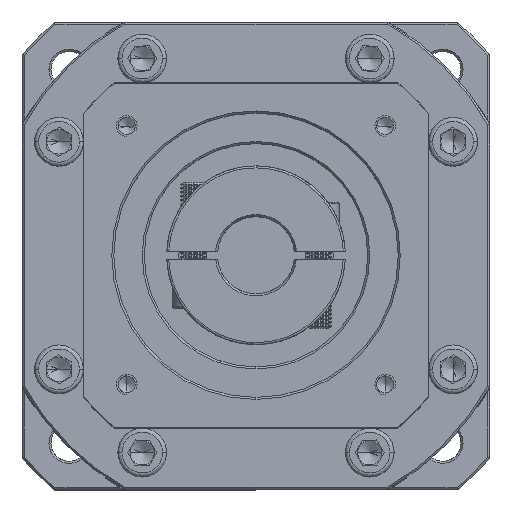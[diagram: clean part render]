
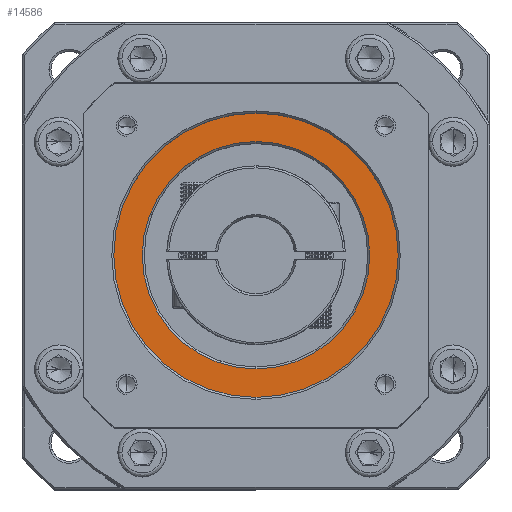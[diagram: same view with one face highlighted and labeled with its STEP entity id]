
A CAD part, top view. The second image highlights one B-rep face of the part: STEP entity #14586.
In plain terms, the highlighted planar face has unit normal (0, 0, 1).
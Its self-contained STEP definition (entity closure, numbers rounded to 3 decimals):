
#9031 = CARTESIAN_POINT ( 'NONE',  ( 81.972, 11.609, -28.735 ) ) ;
#10243 = ORIENTED_EDGE ( 'NONE', *, *, #67965, .T. ) ;
#11352 = AXIS2_PLACEMENT_3D ( 'NONE', #69197, #137442, #29922 ) ;
#11363 = CIRCLE ( 'NONE', #92042, 28. ) ;
#11569 = CARTESIAN_POINT ( 'NONE',  ( 81.972, 46.609, -28.735 ) ) ;
#14586 = ADVANCED_FACE ( 'NONE', ( #79182, #114103 ), #34000, .T. ) ;
#15408 = ORIENTED_EDGE ( 'NONE', *, *, #54149, .T. ) ;
#29922 = DIRECTION ( 'NONE',  ( 0., 1., 0. ) ) ;
#31879 = EDGE_LOOP ( 'NONE', ( #83592, #15408 ) ) ;
#32031 = CARTESIAN_POINT ( 'NONE',  ( 81.972, 74.609, -28.735 ) ) ;
#34000 = PLANE ( 'NONE',  #132094 ) ;
#37236 = CARTESIAN_POINT ( 'NONE',  ( 81.972, 46.609, -28.735 ) ) ;
#37491 = ORIENTED_EDGE ( 'NONE', *, *, #137734, .T. ) ;
#37507 = VERTEX_POINT ( 'NONE', #32031 ) ;
#42101 = DIRECTION ( 'NONE',  ( 0., 0., 1. ) ) ;
#43957 = CIRCLE ( 'NONE', #97955, 35. ) ;
#44702 = VERTEX_POINT ( 'NONE', #9031 ) ;
#47047 = CARTESIAN_POINT ( 'NONE',  ( 81.972, 46.609, -28.735 ) ) ;
#48760 = DIRECTION ( 'NONE',  ( 0., 0., 1. ) ) ;
#54149 = EDGE_CURVE ( 'NONE', #44702, #137483, #65573, .T. ) ;
#57709 = DIRECTION ( 'NONE',  ( 0., 0., -1. ) ) ;
#65573 = CIRCLE ( 'NONE', #87868, 35. ) ;
#67965 = EDGE_CURVE ( 'NONE', #37507, #90326, #11363, .T. ) ;
#69197 = CARTESIAN_POINT ( 'NONE',  ( 81.972, 46.609, -28.735 ) ) ;
#70111 = DIRECTION ( 'NONE',  ( 0., 1., 0. ) ) ;
#76755 = DIRECTION ( 'NONE',  ( 0., 0., 1. ) ) ;
#78528 = CIRCLE ( 'NONE', #11352, 28. ) ;
#79182 = FACE_OUTER_BOUND ( 'NONE', #31879, .T. ) ;
#80431 = CARTESIAN_POINT ( 'NONE',  ( 81.972, 18.609, -28.735 ) ) ;
#83592 = ORIENTED_EDGE ( 'NONE', *, *, #114614, .T. ) ;
#87400 = CARTESIAN_POINT ( 'NONE',  ( 81.972, 46.609, -28.735 ) ) ;
#87868 = AXIS2_PLACEMENT_3D ( 'NONE', #11569, #42101, #128451 ) ;
#90326 = VERTEX_POINT ( 'NONE', #80431 ) ;
#92042 = AXIS2_PLACEMENT_3D ( 'NONE', #47047, #57709, #132068 ) ;
#97955 = AXIS2_PLACEMENT_3D ( 'NONE', #37236, #48760, #70111 ) ;
#98968 = EDGE_LOOP ( 'NONE', ( #10243, #37491 ) ) ;
#114103 = FACE_BOUND ( 'NONE', #98968, .T. ) ;
#114614 = EDGE_CURVE ( 'NONE', #137483, #44702, #43957, .T. ) ;
#119033 = DIRECTION ( 'NONE',  ( 0., 1., 0. ) ) ;
#128451 = DIRECTION ( 'NONE',  ( 0., 1., 0. ) ) ;
#130012 = CARTESIAN_POINT ( 'NONE',  ( 81.972, 81.609, -28.735 ) ) ;
#132068 = DIRECTION ( 'NONE',  ( 0., 1., 0. ) ) ;
#132094 = AXIS2_PLACEMENT_3D ( 'NONE', #87400, #76755, #119033 ) ;
#137442 = DIRECTION ( 'NONE',  ( 0., 0., -1. ) ) ;
#137483 = VERTEX_POINT ( 'NONE', #130012 ) ;
#137734 = EDGE_CURVE ( 'NONE', #90326, #37507, #78528, .T. ) ;
